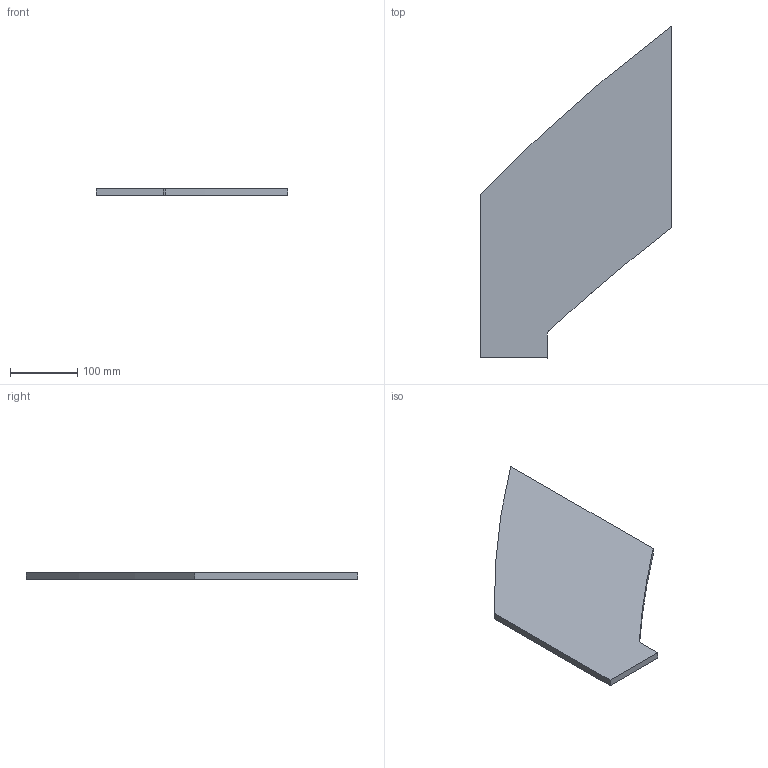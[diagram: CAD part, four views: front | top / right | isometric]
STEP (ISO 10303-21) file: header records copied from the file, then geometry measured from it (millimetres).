
FILE_DESCRIPTION(/* description */ (''),/* implementation_level */ '2;1');
FILE_NAME(/* name */ 'Pos121-Plaatwerk D= 10-S235JRG2-3st',/* time_stamp */ '2024-08-06T13:37:45+02:00',/* author */ (''),/* organization */ (''),/* preprocessor_version */ 'ST-DEVELOPER v16.5',/* originating_system */ 'HiCAD 2024 2901.2 Build 361',/* authorisation */ '');
FILE_SCHEMA (('AUTOMOTIVE_DESIGN { 1 0 10303 214 1 1 1 1 }'));
Length unit declared in the file: millimetre
Products named in the file (1): Pos121-Plaatwerk D= 10-S235JRG2-3st
Bounding box: 285 x 494.03 x 10 mm (x, y, z)
Volume: 849751.6 mm3; surface area: 182980.4 mm2
Topology: 1 solids, 1 shells, 9 faces, 28 edges, 28 vertices
Faces by surface type: plane 6, cylinder 3
Entity records: 589 total; most frequent: CARTESIAN_POINT 65, DIRECTION 52, PRESENTATION_STYLE_ASSIGNMENT 50, COLOUR_RGB 44, DRAUGHTING_PRE_DEFINED_CURVE_FONT 42, CURVE_STYLE 42, OVER_RIDING_STYLED_ITEM 42, ORIENTED_EDGE 42
